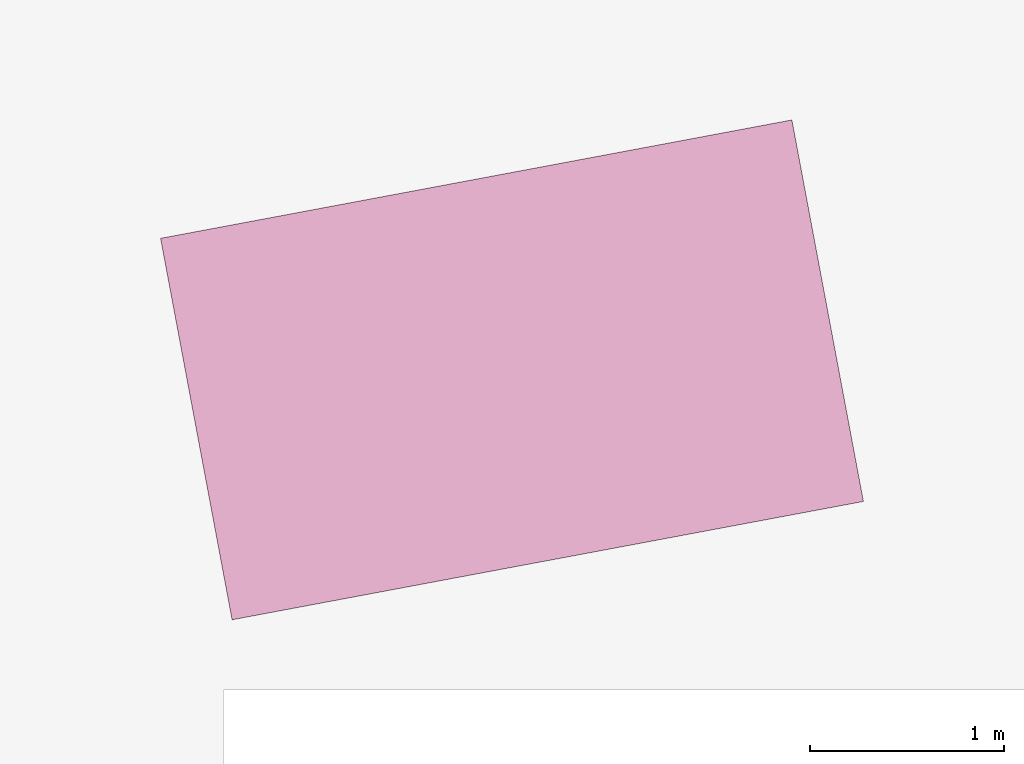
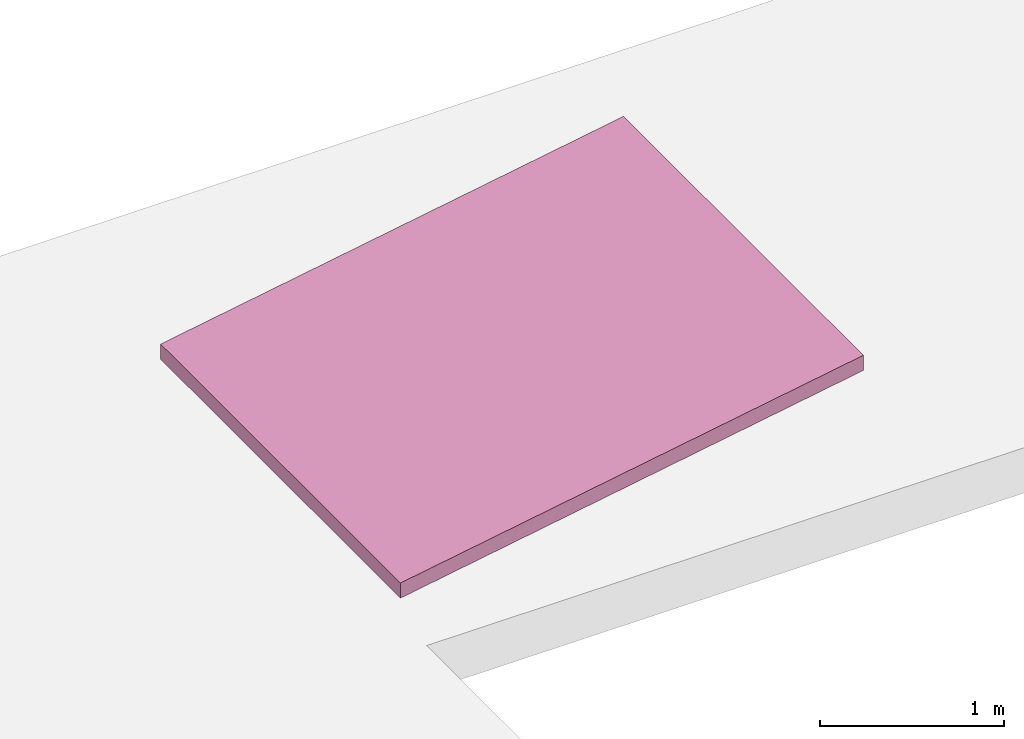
"""IFC4 building model written with IfcOpenShell, lengths in metres."""

from ifc_helpers import new_model, entity, si_unit, converted_unit, derived_unit, frame, origin, place, context, subcontext, project, spatial, faceted_brep, element, save


model = new_model("IFC4")

# Units and contexts
model_context = context("Model", 3, precision=1e-05, world=origin())
body_context = subcontext(model_context, "Body", "Model", "MODEL_VIEW")
ifc_project = project(units=[si_unit("LENGTHUNIT", "METRE"), si_unit("AREAUNIT", "SQUARE_METRE"), si_unit("VOLUMEUNIT", "CUBIC_METRE"), si_unit("MASSUNIT", "GRAM", prefix="KILO"), converted_unit("PLANEANGLEUNIT", "DEGREE", entity("IfcPlaneAngleMeasure", 0.0174532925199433), si_unit("PLANEANGLEUNIT", "RADIAN"), dimensions=[0, 0, 0, 0, 0, 0, 0]), derived_unit("THERMALTRANSMITTANCEUNIT", [(si_unit("POWERUNIT", "WATT"), 1), (si_unit("THERMODYNAMICTEMPERATUREUNIT", "KELVIN"), -1), (si_unit("LENGTHUNIT", "METRE"), -2)]), derived_unit("VOLUMETRICFLOWRATEUNIT", [(si_unit("LENGTHUNIT", "METRE"), 3), (converted_unit("TIMEUNIT", "hour", entity("IfcTimeMeasure", 3600.0), si_unit("TIMEUNIT", "SECOND"), dimensions=[0, 0, 1, 0, 0, 0, 0]), -1), (si_unit("LENGTHUNIT", "METRE"), -1)])], contexts=[model_context])

# Building, storeys
building_placement = place(None, origin())
building = spatial("IfcBuilding", under=ifc_project, at=building_placement, Name="HABITATGE PLURIFAMILIAR", CompositionType="ELEMENT")
storey_1_placement = place(building_placement, frame((0.0, 0.0, 24.37)))
storey_1 = spatial("IfcBuildingStorey", under=building, at=storey_1_placement, Name="PLANTA COBERTA", CompositionType="ELEMENT", Elevation=24.37)
storey_2_placement = place(storey_1_placement, origin())
storey_2 = spatial("IfcBuildingStorey", under=storey_1, at=storey_2_placement, Name="NOU", CompositionType="PARTIAL")

# Furniture
furniture_placement = place(storey_2_placement, frame((409.624008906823, 24.2955139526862, 0.08)))
element("IfcFurniture", 1, at=furniture_placement, inside=storey_2, Name="Placa solar PC", context=body_context, shape_type="Brep", body=[
    faceted_brep([(0.0, 1.96574990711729, 0.519999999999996), (3.25331609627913, 2.57569611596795, 0.519999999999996), (3.25331609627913, 2.57569611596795, 0.619999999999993), (0.0, 1.96574990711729, 0.619999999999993), (3.62186365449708, 0.609946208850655, 0.0), (3.62186365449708, 0.609946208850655, 0.0999999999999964), (0.36854755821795, 0.0, 0.0), (0.36854755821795, 0.0, 0.0999999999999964)], [[[0, 1, 2, 3]], [[1, 4, 5, 2]], [[4, 6, 7, 5]], [[6, 0, 3, 7]], [[7, 3, 2, 5]], [[0, 6, 4, 1]]], orient=[[False], [False], [False], [False], [False], [False]]),
])

save(model, "model.ifc")
